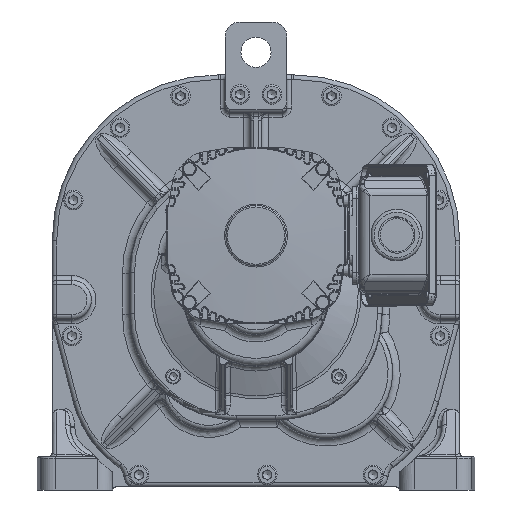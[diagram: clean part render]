
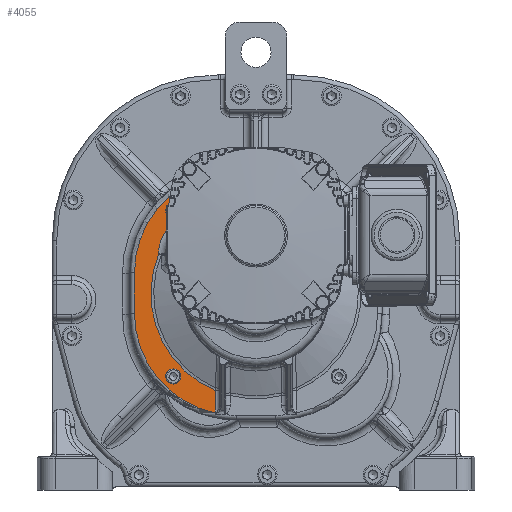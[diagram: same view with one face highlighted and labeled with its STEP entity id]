
A CAD part, left-side view. The second image highlights one B-rep face of the part: STEP entity #4055.
In plain terms, the highlighted planar face has unit normal (-1, 0, 0).
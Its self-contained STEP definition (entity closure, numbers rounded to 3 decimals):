
#4055 = ADVANCED_FACE( '', ( #10179, #10180, #10181 ), #10182, .T. );
#10179 = FACE_BOUND( '', #27635, .T. );
#10180 = FACE_BOUND( '', #27636, .T. );
#10181 = FACE_OUTER_BOUND( '', #27637, .T. );
#10182 = PLANE( '', #27638 );
#27635 = EDGE_LOOP( '', ( #67688 ) );
#27636 = EDGE_LOOP( '', ( #67689 ) );
#27637 = EDGE_LOOP( '', ( #67690, #67691, #67692, #67693, #67694, #67695, #67696, #67697, #67698, #67699, #67700, #67701 ) );
#27638 = AXIS2_PLACEMENT_3D( '', #67702, #67703, #67704 );
#67688 = ORIENTED_EDGE( '', *, *, #87190, .F. );
#67689 = ORIENTED_EDGE( '', *, *, #87191, .F. );
#67690 = ORIENTED_EDGE( '', *, *, #87192, .T. );
#67691 = ORIENTED_EDGE( '', *, *, #87193, .T. );
#67692 = ORIENTED_EDGE( '', *, *, #84317, .T. );
#67693 = ORIENTED_EDGE( '', *, *, #87194, .T. );
#67694 = ORIENTED_EDGE( '', *, *, #84556, .T. );
#67695 = ORIENTED_EDGE( '', *, *, #87195, .T. );
#67696 = ORIENTED_EDGE( '', *, *, #84740, .T. );
#67697 = ORIENTED_EDGE( '', *, *, #85196, .T. );
#67698 = ORIENTED_EDGE( '', *, *, #87196, .T. );
#67699 = ORIENTED_EDGE( '', *, *, #87197, .T. );
#67700 = ORIENTED_EDGE( '', *, *, #87198, .T. );
#67701 = ORIENTED_EDGE( '', *, *, #85744, .T. );
#67702 = CARTESIAN_POINT( '', ( -43., 14., -26. ) );
#67703 = DIRECTION( '', ( -1., 0., 0. ) );
#67704 = DIRECTION( '', ( 0., 1., 0. ) );
#84317 = EDGE_CURVE( '', #93489, #93494, #93496, .F. );
#84556 = EDGE_CURVE( '', #93904, #93909, #93911, .F. );
#84740 = EDGE_CURVE( '', #94223, #94228, #94230, .F. );
#85196 = EDGE_CURVE( '', #94228, #95001, #95003, .F. );
#85744 = EDGE_CURVE( '', #95913, #95793, #95920, .T. );
#87190 = EDGE_CURVE( '', #98259, #98259, #98260, .T. );
#87191 = EDGE_CURVE( '', #98261, #98261, #98262, .T. );
#87192 = EDGE_CURVE( '', #95793, #95728, #98263, .F. );
#87193 = EDGE_CURVE( '', #95728, #93489, #98264, .T. );
#87194 = EDGE_CURVE( '', #93494, #93904, #98265, .T. );
#87195 = EDGE_CURVE( '', #93909, #94223, #98266, .T. );
#87196 = EDGE_CURVE( '', #95001, #98267, #98268, .T. );
#87197 = EDGE_CURVE( '', #98267, #98269, #98270, .T. );
#87198 = EDGE_CURVE( '', #98269, #95913, #98271, .T. );
#93489 = VERTEX_POINT( '', #107490 );
#93494 = VERTEX_POINT( '', #107495 );
#93496 = CIRCLE( '', #107497, 25. );
#93904 = VERTEX_POINT( '', #109291 );
#93909 = VERTEX_POINT( '', #109296 );
#93911 = CIRCLE( '', #109298, 25. );
#94223 = VERTEX_POINT( '', #109814 );
#94228 = VERTEX_POINT( '', #109820 );
#94230 = LINE( '', #109822, #109823 );
#95001 = VERTEX_POINT( '', #112370 );
#95003 = CIRCLE( '', #112372, 8. );
#95728 = VERTEX_POINT( '', #114794 );
#95793 = VERTEX_POINT( '', #115083 );
#95913 = VERTEX_POINT( '', #115408 );
#95920 = LINE( '', #115446, #115447 );
#98259 = VERTEX_POINT( '', #125104 );
#98260 = CIRCLE( '', #125105, 5. );
#98261 = VERTEX_POINT( '', #125106 );
#98262 = CIRCLE( '', #125107, 5. );
#98263 = CIRCLE( '', #125108, 69.597 );
#98264 = LINE( '', #125109, #125110 );
#98265 = LINE( '', #125111, #125112 );
#98266 = LINE( '', #125113, #125114 );
#98267 = VERTEX_POINT( '', #125115 );
#98268 = CIRCLE( '', #125116, 66.5 );
#98269 = VERTEX_POINT( '', #125117 );
#98270 = LINE( '', #125118, #125119 );
#98271 = CIRCLE( '', #125120, 67.5 );
#107490 = CARTESIAN_POINT( '', ( -43., 64.5, -13.284 ) );
#107495 = CARTESIAN_POINT( '', ( -43., 57.178, 4.393 ) );
#107497 = AXIS2_PLACEMENT_3D( '', #143569, #143570, #143571 );
#109291 = CARTESIAN_POINT( '', ( -43., 37.893, 23.678 ) );
#109296 = CARTESIAN_POINT( '', ( -43., 20.216, 31. ) );
#109298 = AXIS2_PLACEMENT_3D( '', #143859, #143860, #143861 );
#109814 = CARTESIAN_POINT( '', ( -43., 20., 31. ) );
#109820 = CARTESIAN_POINT( '', ( -43., 20., 34. ) );
#109822 = CARTESIAN_POINT( '', ( -43., 20., 34. ) );
#109823 = VECTOR( '', #144154, 1000. );
#112370 = CARTESIAN_POINT( '', ( -43., 16.741, 40.443 ) );
#112372 = AXIS2_PLACEMENT_3D( '', #144761, #144762, #144763 );
#114794 = CARTESIAN_POINT( '', ( -43., 64.5, -13.857 ) );
#115083 = CARTESIAN_POINT( '', ( -43., 27., -104.146 ) );
#115408 = CARTESIAN_POINT( '', ( -43., 27., -119.032 ) );
#115446 = CARTESIAN_POINT( '', ( -43., 27., -26. ) );
#115447 = VECTOR( '', #145496, 1000. );
#125104 = CARTESIAN_POINT( '', ( -43., 54.801, 19.801 ) );
#125105 = AXIS2_PLACEMENT_3D( '', #147547, #147548, #147549 );
#125106 = CARTESIAN_POINT( '', ( -43., 54.801, -89.801 ) );
#125107 = AXIS2_PLACEMENT_3D( '', #147550, #147551, #147552 );
#125108 = AXIS2_PLACEMENT_3D( '', #147553, #147554, #147555 );
#125109 = CARTESIAN_POINT( '', ( -43., 64.5, 20.142 ) );
#125110 = VECTOR( '', #147556, 1000. );
#125111 = CARTESIAN_POINT( '', ( -43., 36.911, 24.661 ) );
#125112 = VECTOR( '', #147557, 1000. );
#125113 = CARTESIAN_POINT( '', ( -43., 20.216, 31. ) );
#125114 = VECTOR( '', #147558, 1000. );
#125115 = CARTESIAN_POINT( '', ( -43., 80.5, -26. ) );
#125116 = AXIS2_PLACEMENT_3D( '', #147559, #147560, #147561 );
#125117 = CARTESIAN_POINT( '', ( -43., 80.5, -53. ) );
#125118 = CARTESIAN_POINT( '', ( -43., 80.5, -53. ) );
#125119 = VECTOR( '', #147562, 1000. );
#125120 = AXIS2_PLACEMENT_3D( '', #147563, #147564, #147565 );
#143569 = CARTESIAN_POINT( '', ( -43., 39.5, -13.284 ) );
#143570 = DIRECTION( '', ( -1., 0., 0. ) );
#143571 = DIRECTION( '', ( 0., 1., 0. ) );
#143859 = CARTESIAN_POINT( '', ( -43., 20.216, 6. ) );
#143860 = DIRECTION( '', ( -1., 0., 0. ) );
#143861 = DIRECTION( '', ( 0., 1., 0. ) );
#144154 = DIRECTION( '', ( 0., 0., -1. ) );
#144761 = CARTESIAN_POINT( '', ( -43., 12., 34. ) );
#144762 = DIRECTION( '', ( -1., 0., 0. ) );
#144763 = DIRECTION( '', ( 0., 1., 0. ) );
#145496 = DIRECTION( '', ( 0., 0., 1. ) );
#147547 = CARTESIAN_POINT( '', ( -43., 54.801, 14.801 ) );
#147548 = DIRECTION( '', ( -1., 0., 0. ) );
#147549 = DIRECTION( '', ( 0., 0., 1. ) );
#147550 = CARTESIAN_POINT( '', ( -43., 54.801, -94.801 ) );
#147551 = DIRECTION( '', ( -1., 0., 0. ) );
#147552 = DIRECTION( '', ( 0., 0., 1. ) );
#147553 = CARTESIAN_POINT( '', ( -43., 0., -40. ) );
#147554 = DIRECTION( '', ( -1., 0., 0. ) );
#147555 = DIRECTION( '', ( 0., 1., 0. ) );
#147556 = DIRECTION( '', ( 0., 0., 1. ) );
#147557 = DIRECTION( '', ( 0., -0.707, 0.707 ) );
#147558 = DIRECTION( '', ( 0., -1., 0. ) );
#147559 = CARTESIAN_POINT( '', ( -43., 14., -26. ) );
#147560 = DIRECTION( '', ( -1., 0., 0. ) );
#147561 = DIRECTION( '', ( 0., 1., 0. ) );
#147562 = DIRECTION( '', ( 0., 0., -1. ) );
#147563 = CARTESIAN_POINT( '', ( -43., 13., -53. ) );
#147564 = DIRECTION( '', ( -1., 0., 0. ) );
#147565 = DIRECTION( '', ( 0., 1., 0. ) );
